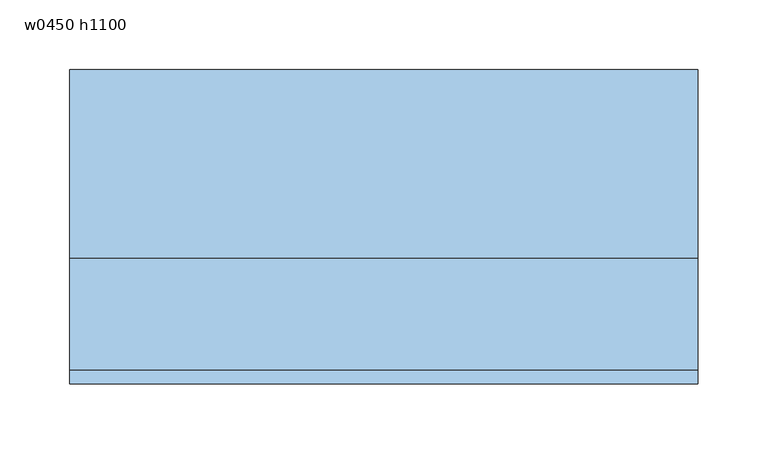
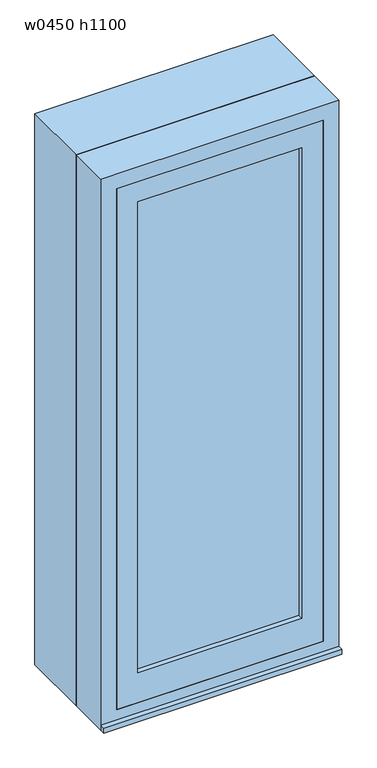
"""IFC4 building model written with IfcOpenShell, lengths in millimetres: window geometry, 窓-Fix-内付 : w0450 h1100."""

from ifc_helpers import new_model, si_unit, frame, origin, place, context, project, spatial, polyline, outline, extrude, source, transform, mapped, element, save


def w0450_h1100_e5a89885(model_context):
    return source(origin(), model_context, "Body", "SweptSolid", [
        extrude(outline(polyline([(60.0, 225.0), (1160.0, 225.0), (1160.0, -225.0), (60.0, -225.0), (60.0, 225.0)]), holes=[polyline([(80.0, 205.0), (80.0, -205.0), (1140.0, -205.0), (1140.0, 205.0), (80.0, 205.0)])]), frame((0.0, -20.0, 0.0), z_axis=(0.0, 1.0, 0.0), x_axis=(0.0, 0.0, 1.0)), (0.0, 0.0, 1.0), 135.0),
        extrude(outline(polyline([(60.0, -225.0), (60.0, 225.0), (1160.0, 225.0), (1160.0, -225.0), (60.0, -225.0)]), holes=[polyline([(90.0, -195.0), (1130.0, -195.0), (1130.0, 195.0), (90.0, 195.0), (90.0, -195.0)])]), frame((0.0, -100.0, 0.0), z_axis=(0.0, 1.0, 0.0), x_axis=(0.0, 0.0, 1.0)), (0.0, 0.0, 1.0), 80.0),
        extrude(outline(polyline([(155.0, -80.0), (155.0, -90.0), (-155.0, -90.0), (-155.0, -80.0), (155.0, -80.0)])), frame((0.0, 0.0, 150.0), z_axis=(0.0, 0.0, 1.0), x_axis=(1.0, 0.0, 0.0)), (0.0, 0.0, 1.0), 940.0),
        extrude(outline(polyline([(90.0, -195.0), (90.0, 195.0), (1130.0, 195.0), (1130.0, -195.0), (90.0, -195.0)]), holes=[polyline([(150.0, -155.0), (1090.0, -155.0), (1090.0, 155.0), (150.0, 155.0), (150.0, -155.0)])]), frame((0.0, -100.0, 0.0), z_axis=(0.0, 1.0, 0.0), x_axis=(0.0, 0.0, 1.0)), (0.0, 0.0, 1.0), 30.0),
        extrude(outline(polyline([(225.0, -110.0), (-225.0, -110.0), (-225.0, -100.0), (225.0, -100.0), (225.0, -110.0)])), frame((0.0, 0.0, 60.0), z_axis=(0.0, 0.0, 1.0), x_axis=(1.0, 0.0, 0.0)), (0.0, 0.0, 1.0), 10.0),
    ])


if __name__ == "__main__":
    model = new_model("IFC4")
    model_context = context("Model", 3, world=origin())
    ifc_project = project(units=[si_unit("LENGTHUNIT", "METRE", prefix="MILLI")], contexts=[model_context])
    site = spatial("IfcSite", under=ifc_project)
    building = spatial("IfcBuilding", under=site)
    placement = place(None, origin())
    w0450_h1100_shape = w0450_h1100_e5a89885(model_context)
    element("IfcWindow", 1, ObjectType="窓-Fix-内付 : w0450 h1100", at=placement, inside=building, context=model_context, shape_type="MappedRepresentation", body=[
        mapped(w0450_h1100_shape, transform((0.0, 0.0, 0.0), x_axis=(1.0, 0.0, 0.0), y_axis=(0.0, 1.0, 0.0), z_axis=(0.0, 0.0, 1.0))),
    ])
    save(model, "model.ifc")
